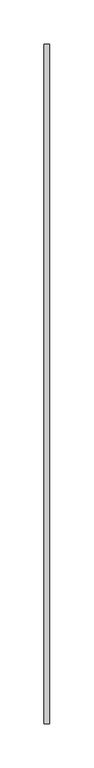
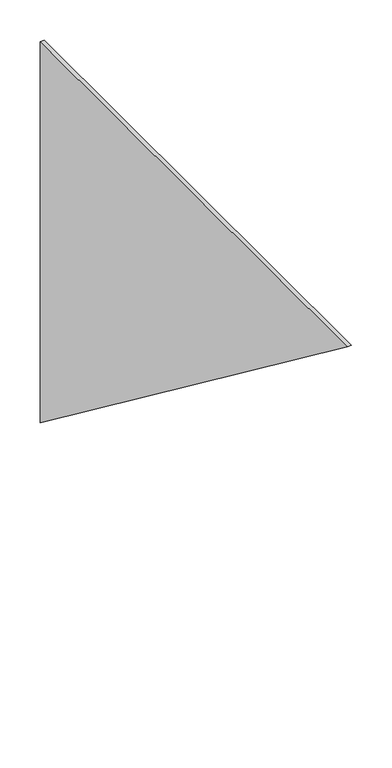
"""IFC4 building model written with IfcOpenShell, lengths in millimetres: beam geometry,  167165 :  167165."""

from ifc_helpers import new_model, si_unit, frame, origin, place, context, project, spatial, polyline, outline, extrude, source, transform, mapped, element, save


def beam_1cf54445(model_context):
    return source(origin(), model_context, "Body", "SweptSolid", [
        extrude(outline(polyline([(-1505.886575, 7430.14), (-740.55, 7430.14), (-740.55, 6850.3937869), (-1505.886575, 7430.14)])), frame((5.9999999, 0.0, 0.0), z_axis=(1.0, 0.0, 0.0), x_axis=(0.0, 1.0, 0.0)), (0.0, 0.0, 1.0), 6.0),
    ])


if __name__ == "__main__":
    model = new_model("IFC4")
    model_context = context("Model", 3, world=origin())
    ifc_project = project(units=[si_unit("LENGTHUNIT", "METRE", prefix="MILLI")], contexts=[model_context])
    site = spatial("IfcSite", under=ifc_project)
    building = spatial("IfcBuilding", under=site)
    placement = place(None, origin())
    beam_shape = beam_1cf54445(model_context)
    element("IfcBeam", 1, ObjectType=" 167165 :  167165", at=placement, inside=building, context=model_context, shape_type="MappedRepresentation", body=[
        mapped(beam_shape, transform((0.0, 0.0, 0.0), x_axis=(1.0, 0.0, 0.0), y_axis=(0.0, 1.0, 0.0), z_axis=(0.0, 0.0, 1.0))),
    ])
    save(model, "model.ifc")
